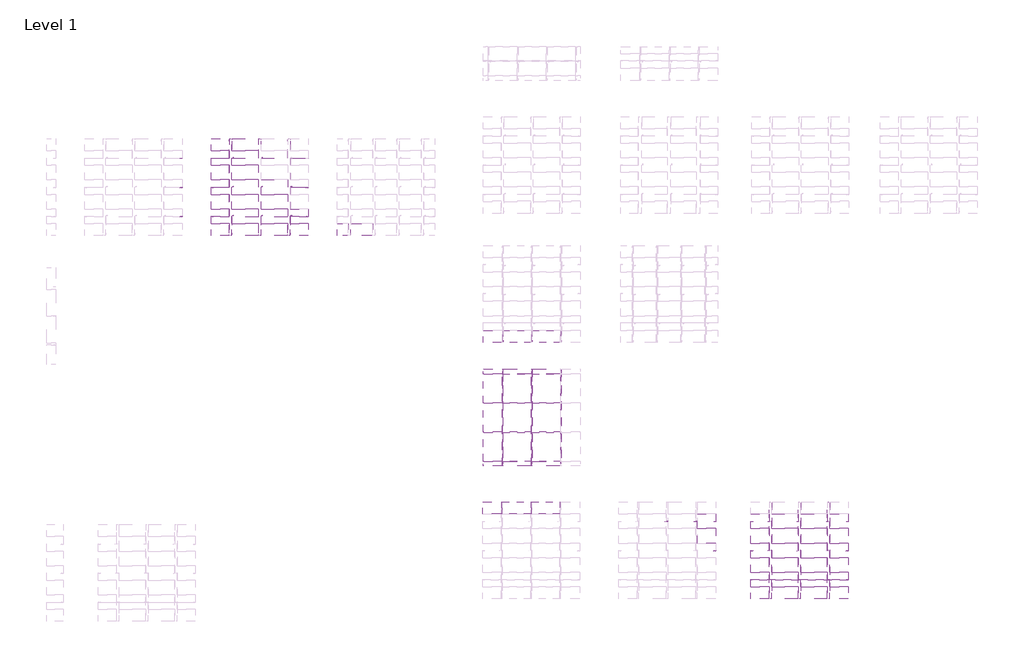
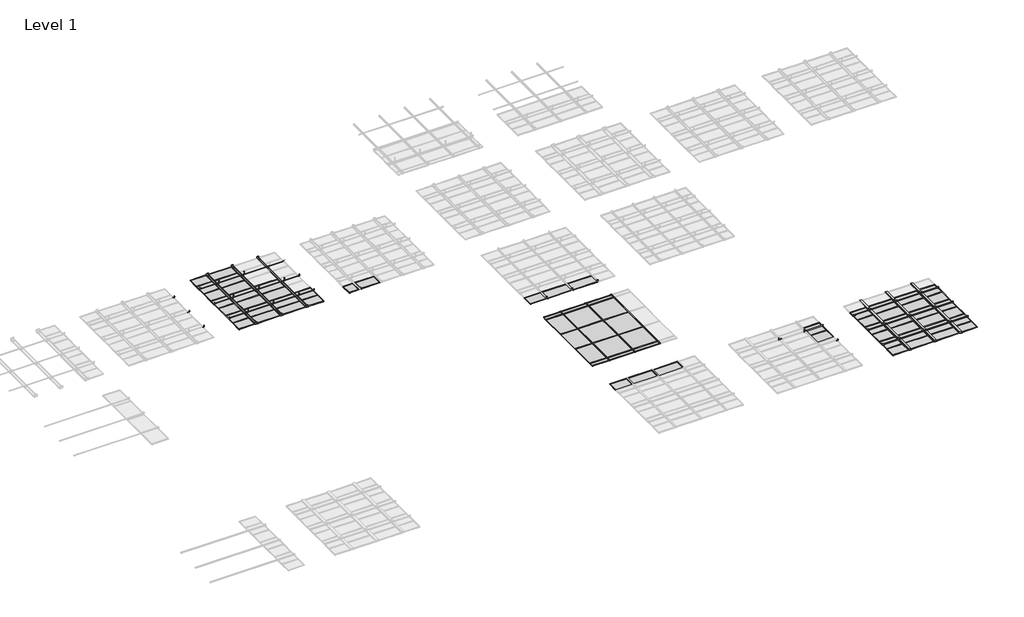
# One storey, part 5 of 32: 136 proxies.
"""IFC4 building model written with IfcOpenShell, lengths in millimetres."""

from ifc_helpers import new_model, si_unit, origin, place, context, project, spatial, transform, mapped, element, save
from components import generic_models_68f9382c, generic_models_d3878264, generic_models_7700acbb, generic_models_8e456d97, generic_models_674eb8ab, generic_models_d1081ca2, generic_models_7d67d448, generic_models_b8162554, generic_models_99a2cd64, generic_models_cbd92ba2, generic_models_ce491251, generic_models_a5dce9ca, generic_models_0bd2aacc, generic_models_586f8c3b, generic_models_67fbcb7b, generic_models_25bc2594, generic_models_10fcad68, generic_models_8b703b53, generic_models_84b6d0ed, generic_models_a920f71d, generic_models_9b3707d3, generic_models_0d7f372a, generic_models_a7cc5778, generic_models_d23eb307, generic_models_71d81b3c, generic_models_2307843b, generic_models_9e18e937, generic_models_28f6a95c

model = new_model("IFC4")

# Units and contexts
model_context = context("Model", 3, world=origin())
ifc_project = project(units=[si_unit("LENGTHUNIT", "METRE", prefix="MILLI")], contexts=[model_context])

# Site, building, storey
site = spatial("IfcSite", under=ifc_project)
building = spatial("IfcBuilding", under=site)
storey = spatial("IfcBuildingStorey", under=building, Name="Level 1", Elevation=0.0)

# Proxies
placement = place(None, origin())
generic_models_shape = generic_models_68f9382c(model_context)
element("IfcBuildingElementProxy", 1, Name="durlum_S5-100_RHOMBOS_panel : durlum_S5-100_RHOMBOS_panel", ObjectType="durlum_S5-100_RHOMBOS_panel : durlum_S5-100_RHOMBOS_panel", at=placement, inside=storey, context=model_context, shape_type="MappedRepresentation", body=[
    mapped(generic_models_shape, transform((-29195.2269838, -2961.3211481, 3800.0), x_axis=(1.0, 0.0, 0.0), y_axis=(0.0, 1.0, 0.0), z_axis=(0.0, 0.0, 1.0))),
])
element("IfcBuildingElementProxy", 2, Name="durlum_S5-100_RHOMBOS_panel : durlum_S5-100_RHOMBOS_panel", ObjectType="durlum_S5-100_RHOMBOS_panel : durlum_S5-100_RHOMBOS_panel", at=placement, inside=storey, context=model_context, shape_type="MappedRepresentation", body=[
    mapped(generic_models_shape, transform((-27995.2269838, -2961.3211481, 3800.0), x_axis=(1.0, 0.0, 0.0), y_axis=(0.0, 1.0, 0.0), z_axis=(0.0, 0.0, 1.0))),
])
element("IfcBuildingElementProxy", 3, Name="durlum_S5-100_RHOMBOS_panel : durlum_S5-100_RHOMBOS_panel", ObjectType="durlum_S5-100_RHOMBOS_panel : durlum_S5-100_RHOMBOS_panel", at=placement, inside=storey, context=model_context, shape_type="MappedRepresentation", body=[
    mapped(generic_models_shape, transform((-29195.2269838, -2361.3211481, 3800.0), x_axis=(1.0, 0.0, 0.0), y_axis=(0.0, 1.0, 0.0), z_axis=(0.0, 0.0, 1.0))),
])
element("IfcBuildingElementProxy", 4, Name="durlum_S5-100_RHOMBOS_panel : durlum_S5-100_RHOMBOS_panel", ObjectType="durlum_S5-100_RHOMBOS_panel : durlum_S5-100_RHOMBOS_panel", at=placement, inside=storey, context=model_context, shape_type="MappedRepresentation", body=[
    mapped(generic_models_shape, transform((-27995.2269838, -2361.3211481, 3800.0), x_axis=(1.0, 0.0, 0.0), y_axis=(0.0, 1.0, 0.0), z_axis=(0.0, 0.0, 1.0))),
])
element("IfcBuildingElementProxy", 5, Name="durlum_S5-100_RHOMBOS_panel : durlum_S5-100_RHOMBOS_panel", ObjectType="durlum_S5-100_RHOMBOS_panel : durlum_S5-100_RHOMBOS_panel", at=placement, inside=storey, context=model_context, shape_type="MappedRepresentation", body=[
    mapped(generic_models_shape, transform((-29195.2269838, -1761.3211481, 3800.0), x_axis=(1.0, 0.0, 0.0), y_axis=(0.0, 1.0, 0.0), z_axis=(0.0, 0.0, 1.0))),
])
element("IfcBuildingElementProxy", 6, Name="durlum_S5-100_RHOMBOS_panel : durlum_S5-100_RHOMBOS_panel", ObjectType="durlum_S5-100_RHOMBOS_panel : durlum_S5-100_RHOMBOS_panel", at=placement, inside=storey, context=model_context, shape_type="MappedRepresentation", body=[
    mapped(generic_models_shape, transform((-29195.2269838, -3561.3211481, 3800.0), x_axis=(1.0, 0.0, 0.0), y_axis=(0.0, 1.0, 0.0), z_axis=(0.0, 0.0, 1.0))),
])
element("IfcBuildingElementProxy", 7, Name="durlum_S5-100_RHOMBOS_panel : durlum_S5-100_RHOMBOS_panel", ObjectType="durlum_S5-100_RHOMBOS_panel : durlum_S5-100_RHOMBOS_panel", at=placement, inside=storey, context=model_context, shape_type="MappedRepresentation", body=[
    mapped(generic_models_shape, transform((-27995.2269838, -3561.3211481, 3800.0), x_axis=(1.0, 0.0, 0.0), y_axis=(0.0, 1.0, 0.0), z_axis=(0.0, 0.0, 1.0))),
])
element("IfcBuildingElementProxy", 8, Name="durlum_S5-100_RHOMBOS_panel : durlum_S5-100_RHOMBOS_panel", ObjectType="durlum_S5-100_RHOMBOS_panel : durlum_S5-100_RHOMBOS_panel", at=placement, inside=storey, context=model_context, shape_type="MappedRepresentation", body=[
    mapped(generic_models_shape, transform((-29195.2269838, -1161.3211481, 3800.0), x_axis=(1.0, 0.0, 0.0), y_axis=(0.0, 1.0, 0.0), z_axis=(0.0, 0.0, 1.0))),
])
generic_models_2_shape = generic_models_d3878264(model_context)
element("IfcBuildingElementProxy", 9, Name="durlum_S5-100_RHOMBOS_panel : durlum_S5-100_RHOMBOS_panel_wall_length_cut", ObjectType="durlum_S5-100_RHOMBOS_panel : durlum_S5-100_RHOMBOS_panel_wall_length_cut", at=placement, inside=storey, context=model_context, shape_type="MappedRepresentation", body=[
    mapped(generic_models_2_shape, transform((-30221.7269838, -2961.3211481, 3800.0), x_axis=(1.0, 0.0, 0.0), y_axis=(0.0, 1.0, 0.0), z_axis=(0.0, 0.0, 1.0))),
])
element("IfcBuildingElementProxy", 10, Name="durlum_S5-100_RHOMBOS_panel : durlum_S5-100_RHOMBOS_panel_wall_length_cut", ObjectType="durlum_S5-100_RHOMBOS_panel : durlum_S5-100_RHOMBOS_panel_wall_length_cut", at=placement, inside=storey, context=model_context, shape_type="MappedRepresentation", body=[
    mapped(generic_models_2_shape, transform((-30221.7269838, -2361.3211481, 3800.0), x_axis=(1.0, 0.0, 0.0), y_axis=(0.0, 1.0, 0.0), z_axis=(0.0, 0.0, 1.0))),
])
element("IfcBuildingElementProxy", 11, Name="durlum_S5-100_RHOMBOS_panel : durlum_S5-100_RHOMBOS_panel_wall_length_cut", ObjectType="durlum_S5-100_RHOMBOS_panel : durlum_S5-100_RHOMBOS_panel_wall_length_cut", at=placement, inside=storey, context=model_context, shape_type="MappedRepresentation", body=[
    mapped(generic_models_2_shape, transform((-30221.7269838, -1761.3211481, 3800.0), x_axis=(1.0, 0.0, 0.0), y_axis=(0.0, 1.0, 0.0), z_axis=(0.0, 0.0, 1.0))),
])
element("IfcBuildingElementProxy", 12, Name="durlum_S5-100_RHOMBOS_panel : durlum_S5-100_RHOMBOS_panel_wall_length_cut", ObjectType="durlum_S5-100_RHOMBOS_panel : durlum_S5-100_RHOMBOS_panel_wall_length_cut", at=placement, inside=storey, context=model_context, shape_type="MappedRepresentation", body=[
    mapped(generic_models_2_shape, transform((-30221.7269838, -3561.3211481, 3800.0), x_axis=(1.0, 0.0, 0.0), y_axis=(0.0, 1.0, 0.0), z_axis=(0.0, 0.0, 1.0))),
])
element("IfcBuildingElementProxy", 13, Name="durlum_S5-100_RHOMBOS_panel : durlum_S5-100_RHOMBOS_panel_wall_length_cut", ObjectType="durlum_S5-100_RHOMBOS_panel : durlum_S5-100_RHOMBOS_panel_wall_length_cut", at=placement, inside=storey, context=model_context, shape_type="MappedRepresentation", body=[
    mapped(generic_models_2_shape, transform((-26968.7269838, -3561.3211481, 3800.0), x_axis=(1.0, 0.0, 0.0), y_axis=(0.0, 1.0, 0.0), z_axis=(0.0, 0.0, 1.0))),
])
element("IfcBuildingElementProxy", 14, Name="durlum_S5-100_RHOMBOS_panel : durlum_S5-100_RHOMBOS_panel_wall_length_cut", ObjectType="durlum_S5-100_RHOMBOS_panel : durlum_S5-100_RHOMBOS_panel_wall_length_cut", at=placement, inside=storey, context=model_context, shape_type="MappedRepresentation", body=[
    mapped(generic_models_2_shape, transform((-30221.7269838, -1161.3211481, 3800.0), x_axis=(1.0, 0.0, 0.0), y_axis=(0.0, 1.0, 0.0), z_axis=(0.0, 0.0, 1.0))),
])
generic_models_3_shape = generic_models_7700acbb(model_context)
element("IfcBuildingElementProxy", 15, Name="durlum_S5-100_RHOMBOS_panel : durlum_S5-100_RHOMBOS_panel_wall_width_cut", ObjectType="durlum_S5-100_RHOMBOS_panel : durlum_S5-100_RHOMBOS_panel_wall_width_cut", at=placement, inside=storey, context=model_context, shape_type="MappedRepresentation", body=[
    mapped(generic_models_3_shape, transform((-27995.2269838, -4111.3211481, 3800.0), x_axis=(1.0, 0.0, 0.0), y_axis=(0.0, 1.0, 0.0), z_axis=(0.0, 0.0, 1.0))),
])
element("IfcBuildingElementProxy", 16, Name="durlum_S5-100_RHOMBOS_panel : durlum_S5-100_RHOMBOS_panel_wall_width_cut", ObjectType="durlum_S5-100_RHOMBOS_panel : durlum_S5-100_RHOMBOS_panel_wall_width_cut", at=placement, inside=storey, context=model_context, shape_type="MappedRepresentation", body=[
    mapped(generic_models_3_shape, transform((-29195.2269838, -4111.3211481, 3800.0), x_axis=(1.0, 0.0, 0.0), y_axis=(0.0, 1.0, 0.0), z_axis=(0.0, 0.0, 1.0))),
])
element("IfcBuildingElementProxy", 17, Name="durlum_S5-100_RHOMBOS_panel : durlum_S5-100_RHOMBOS_panel_wall_width_cut", ObjectType="durlum_S5-100_RHOMBOS_panel : durlum_S5-100_RHOMBOS_panel_wall_width_cut", at=placement, inside=storey, context=model_context, shape_type="MappedRepresentation", body=[
    mapped(generic_models_3_shape, transform((-29195.2269838, -611.3211481, 3800.0), x_axis=(1.0, 0.0, 0.0), y_axis=(0.0, 1.0, 0.0), z_axis=(0.0, 0.0, 1.0))),
])
generic_models_4_shape = generic_models_8e456d97(model_context)
element("IfcBuildingElementProxy", 18, Name="durlum_S5-100_RHOMBOS_panel : durlum_S5-100_RHOMBOS_panel_wall_corner", ObjectType="durlum_S5-100_RHOMBOS_panel : durlum_S5-100_RHOMBOS_panel_wall_corner", at=placement, inside=storey, context=model_context, shape_type="MappedRepresentation", body=[
    mapped(generic_models_4_shape, transform((-30221.7269838, -4111.3211481, 3800.0), x_axis=(1.0, 0.0, 0.0), y_axis=(0.0, 1.0, 0.0), z_axis=(0.0, 0.0, 1.0))),
])
element("IfcBuildingElementProxy", 19, Name="durlum_S5-100_RHOMBOS_panel : durlum_S5-100_RHOMBOS_panel_wall_corner", ObjectType="durlum_S5-100_RHOMBOS_panel : durlum_S5-100_RHOMBOS_panel_wall_corner", at=placement, inside=storey, context=model_context, shape_type="MappedRepresentation", body=[
    mapped(generic_models_4_shape, transform((-26968.7269838, -4111.3211481, 3800.0), x_axis=(1.0, 0.0, 0.0), y_axis=(0.0, 1.0, 0.0), z_axis=(0.0, 0.0, 1.0))),
])
element("IfcBuildingElementProxy", 20, Name="durlum_S5-100_RHOMBOS_panel : durlum_S5-100_RHOMBOS_panel_wall_corner", ObjectType="durlum_S5-100_RHOMBOS_panel : durlum_S5-100_RHOMBOS_panel_wall_corner", at=placement, inside=storey, context=model_context, shape_type="MappedRepresentation", body=[
    mapped(generic_models_4_shape, transform((-30221.7269838, -611.3211481, 3800.0), x_axis=(1.0, 0.0, 0.0), y_axis=(0.0, 1.0, 0.0), z_axis=(0.0, 0.0, 1.0))),
])
generic_models_5_shape = generic_models_674eb8ab(model_context)
element("IfcBuildingElementProxy", 21, Name="durlum_U1093 : durlum_U1093", ObjectType="durlum_U1093 : durlum_U1093", at=placement, inside=storey, context=model_context, shape_type="MappedRepresentation", body=[
    mapped(generic_models_5_shape, transform((-17390.1736977, -11861.9209574, 3824.0), x_axis=(0.0, -1.0, 0.0), y_axis=(1.0, 0.0, 0.0), z_axis=(0.0, 0.0, 1.0))),
])
element("IfcBuildingElementProxy", 22, Name="durlum_U1093 : durlum_U1093", ObjectType="durlum_U1093 : durlum_U1093", at=placement, inside=storey, context=model_context, shape_type="MappedRepresentation", body=[
    mapped(generic_models_5_shape, transform((-16190.1736977, -11861.9209574, 3824.0), x_axis=(0.0, -1.0, 0.0), y_axis=(1.0, 0.0, 0.0), z_axis=(0.0, 0.0, 1.0))),
])
element("IfcBuildingElementProxy", 23, Name="durlum_U1093 : durlum_U1093", ObjectType="durlum_U1093 : durlum_U1093", at=placement, inside=storey, context=model_context, shape_type="MappedRepresentation", body=[
    mapped(generic_models_5_shape, transform((-18590.1736977, -11861.9209574, 3824.0), x_axis=(0.0, -1.0, 0.0), y_axis=(1.0, 0.0, 0.0), z_axis=(0.0, 0.0, 1.0))),
])
generic_models_6_shape = generic_models_d1081ca2(model_context)
element("IfcBuildingElementProxy", 24, Name="durlum_S7_panel : durlum_S7_panel_wall_width_cut", ObjectType="durlum_S7_panel : durlum_S7_panel_wall_width_cut", at=placement, inside=storey, context=model_context, shape_type="MappedRepresentation", body=[
    mapped(generic_models_6_shape, transform((-16790.1736977, -8514.8137232, 3800.0), x_axis=(1.0, 0.0, 0.0), y_axis=(0.0, 1.0, 0.0), z_axis=(0.0, 0.0, 1.0))),
])
element("IfcBuildingElementProxy", 25, Name="durlum_S7_panel : durlum_S7_panel_wall_width_cut", ObjectType="durlum_S7_panel : durlum_S7_panel_wall_width_cut", at=placement, inside=storey, context=model_context, shape_type="MappedRepresentation", body=[
    mapped(generic_models_6_shape, transform((-17990.1736977, -8514.8137232, 3800.0), x_axis=(1.0, 0.0, 0.0), y_axis=(0.0, 1.0, 0.0), z_axis=(0.0, 0.0, 1.0))),
])
generic_models_7_shape = generic_models_7d67d448(model_context)
element("IfcBuildingElementProxy", 26, Name="durlum_S7_panel : durlum_S7_panel_wall_corner", ObjectType="durlum_S7_panel : durlum_S7_panel_wall_corner", at=placement, inside=storey, context=model_context, shape_type="MappedRepresentation", body=[
    mapped(generic_models_7_shape, transform((-18990.1736977, -8514.8137232, 3800.0), x_axis=(1.0, 0.0, 0.0), y_axis=(0.0, 1.0, 0.0), z_axis=(0.0, 0.0, 1.0))),
])
generic_models_8_shape = generic_models_b8162554(model_context)
element("IfcBuildingElementProxy", 27, Name="durlum_S5.7KS-BR_panel : durlum_S5.7KS-BR_panel_wall_width_cut", ObjectType="durlum_S5.7KS-BR_panel : durlum_S5.7KS-BR_panel_wall_width_cut", at=placement, inside=storey, context=model_context, shape_type="MappedRepresentation", body=[
    mapped(generic_models_8_shape, transform((-24395.2269838, -4111.3211481, 3800.0), x_axis=(1.0, 0.0, 0.0), y_axis=(0.0, 1.0, 0.0), z_axis=(0.0, 0.0, 1.0))),
])
generic_models_9_shape = generic_models_99a2cd64(model_context)
element("IfcBuildingElementProxy", 28, Name="durlum_S5.7KS-BR_panel : durlum_S5.7KS-BR_panel_wall_corner", ObjectType="durlum_S5.7KS-BR_panel : durlum_S5.7KS-BR_panel_wall_corner", at=placement, inside=storey, context=model_context, shape_type="MappedRepresentation", body=[
    mapped(generic_models_9_shape, transform((-25171.7269838, -4111.3211481, 3800.0), x_axis=(1.0, 0.0, 0.0), y_axis=(0.0, 1.0, 0.0), z_axis=(0.0, 0.0, 1.0))),
])
generic_models_10_shape = generic_models_cbd92ba2(model_context)
element("IfcBuildingElementProxy", 29, Name="durlum_S5.6FH_RHOMBOS : durlum_S5.6FH_RHOMBOS", ObjectType="durlum_S5.6FH_RHOMBOS : durlum_S5.6FH_RHOMBOS", at=placement, inside=storey, context=model_context, shape_type="MappedRepresentation", body=[
    mapped(generic_models_10_shape, transform((-28595.2269838, -2361.3211481, 1700.0), x_axis=(1.0, 0.0, 0.0), y_axis=(0.0, 1.0, 0.0), z_axis=(0.0, 0.0, 1.0))),
])
generic_models_11_shape = generic_models_ce491251(model_context)
element("IfcBuildingElementProxy", 30, Name="durlum_U1300 : durlum_U1300", ObjectType="durlum_U1300 : durlum_U1300", at=placement, inside=storey, context=model_context, shape_type="MappedRepresentation", body=[
    mapped(generic_models_11_shape, transform((-29695.2269838, -3561.3211481, 3149.4124682), x_axis=(-1.0, 0.0, 0.0), y_axis=(0.0, -1.0, 0.0), z_axis=(0.0, 0.0, 1.0))),
])
element("IfcBuildingElementProxy", 31, Name="durlum_U1300 : durlum_U1300", ObjectType="durlum_U1300 : durlum_U1300", at=placement, inside=storey, context=model_context, shape_type="MappedRepresentation", body=[
    mapped(generic_models_11_shape, transform((-27295.2269838, -3561.3211481, 3149.4124682), x_axis=(-1.0, 0.0, 0.0), y_axis=(0.0, -1.0, 0.0), z_axis=(0.0, 0.0, 1.0))),
])
element("IfcBuildingElementProxy", 32, Name="durlum_U1300 : durlum_U1300", ObjectType="durlum_U1300 : durlum_U1300", at=placement, inside=storey, context=model_context, shape_type="MappedRepresentation", body=[
    mapped(generic_models_11_shape, transform((-28495.2269838, -3561.3211481, 3149.4124682), x_axis=(-1.0, 0.0, 0.0), y_axis=(0.0, -1.0, 0.0), z_axis=(0.0, 0.0, 1.0))),
])
element("IfcBuildingElementProxy", 33, Name="durlum_U1300 : durlum_U1300", ObjectType="durlum_U1300 : durlum_U1300", at=placement, inside=storey, context=model_context, shape_type="MappedRepresentation", body=[
    mapped(generic_models_11_shape, transform((-29695.2269838, -1161.3211481, 3149.4124682), x_axis=(-1.0, 0.0, 0.0), y_axis=(0.0, -1.0, 0.0), z_axis=(0.0, 0.0, 1.0))),
])
element("IfcBuildingElementProxy", 34, Name="durlum_U1300 : durlum_U1300", ObjectType="durlum_U1300 : durlum_U1300", at=placement, inside=storey, context=model_context, shape_type="MappedRepresentation", body=[
    mapped(generic_models_11_shape, transform((-28495.2269838, -1161.3211481, 3149.4124682), x_axis=(-1.0, 0.0, 0.0), y_axis=(0.0, -1.0, 0.0), z_axis=(0.0, 0.0, 1.0))),
])
element("IfcBuildingElementProxy", 35, Name="durlum_U1300 : durlum_U1300", ObjectType="durlum_U1300 : durlum_U1300", at=placement, inside=storey, context=model_context, shape_type="MappedRepresentation", body=[
    mapped(generic_models_11_shape, transform((-29695.2269838, -2361.3211481, 3149.4124682), x_axis=(-1.0, 0.0, 0.0), y_axis=(0.0, -1.0, 0.0), z_axis=(0.0, 0.0, 1.0))),
])
element("IfcBuildingElementProxy", 36, Name="durlum_U1300 : durlum_U1300", ObjectType="durlum_U1300 : durlum_U1300", at=placement, inside=storey, context=model_context, shape_type="MappedRepresentation", body=[
    mapped(generic_models_11_shape, transform((-27295.2269838, -2361.3211481, 3149.4124682), x_axis=(-1.0, 0.0, 0.0), y_axis=(0.0, -1.0, 0.0), z_axis=(0.0, 0.0, 1.0))),
])
element("IfcBuildingElementProxy", 37, Name="durlum_U1300 : durlum_U1300", ObjectType="durlum_U1300 : durlum_U1300", at=placement, inside=storey, context=model_context, shape_type="MappedRepresentation", body=[
    mapped(generic_models_11_shape, transform((-28495.2269838, -2361.3211481, 3149.4124682), x_axis=(-1.0, 0.0, 0.0), y_axis=(0.0, -1.0, 0.0), z_axis=(0.0, 0.0, 1.0))),
])
generic_models_12_shape = generic_models_a5dce9ca(model_context)
element("IfcBuildingElementProxy", 38, Name="durlum_S10H_panel : durlum_S10H_panel", ObjectType="durlum_S10H_panel : durlum_S10H_panel", at=placement, inside=storey, context=model_context, shape_type="MappedRepresentation", body=[
    mapped(generic_models_12_shape, transform((-17990.1736977, -11861.9209574, 3800.0), x_axis=(1.0, 0.0, 0.0), y_axis=(0.0, 1.0, 0.0), z_axis=(0.0, 0.0, 1.0))),
])
element("IfcBuildingElementProxy", 39, Name="durlum_S10H_panel : durlum_S10H_panel", ObjectType="durlum_S10H_panel : durlum_S10H_panel", at=placement, inside=storey, context=model_context, shape_type="MappedRepresentation", body=[
    mapped(generic_models_12_shape, transform((-16790.1736977, -11861.9209574, 3800.0), x_axis=(1.0, 0.0, 0.0), y_axis=(0.0, 1.0, 0.0), z_axis=(0.0, 0.0, 1.0))),
])
element("IfcBuildingElementProxy", 40, Name="durlum_S10H_panel : durlum_S10H_panel", ObjectType="durlum_S10H_panel : durlum_S10H_panel", at=placement, inside=storey, context=model_context, shape_type="MappedRepresentation", body=[
    mapped(generic_models_12_shape, transform((-17990.1736977, -13061.9209574, 3800.0), x_axis=(1.0, 0.0, 0.0), y_axis=(0.0, 1.0, 0.0), z_axis=(0.0, 0.0, 1.0))),
])
element("IfcBuildingElementProxy", 41, Name="durlum_S10H_panel : durlum_S10H_panel", ObjectType="durlum_S10H_panel : durlum_S10H_panel", at=placement, inside=storey, context=model_context, shape_type="MappedRepresentation", body=[
    mapped(generic_models_12_shape, transform((-16790.1736977, -13061.9209574, 3800.0), x_axis=(1.0, 0.0, 0.0), y_axis=(0.0, 1.0, 0.0), z_axis=(0.0, 0.0, 1.0))),
])
element("IfcBuildingElementProxy", 42, Name="durlum_S10H_panel : durlum_S10H_panel", ObjectType="durlum_S10H_panel : durlum_S10H_panel", at=placement, inside=storey, context=model_context, shape_type="MappedRepresentation", body=[
    mapped(generic_models_12_shape, transform((-17990.1736977, -10661.9209574, 3800.0), x_axis=(1.0, 0.0, 0.0), y_axis=(0.0, 1.0, 0.0), z_axis=(0.0, 0.0, 1.0))),
])
element("IfcBuildingElementProxy", 43, Name="durlum_S10H_panel : durlum_S10H_panel", ObjectType="durlum_S10H_panel : durlum_S10H_panel", at=placement, inside=storey, context=model_context, shape_type="MappedRepresentation", body=[
    mapped(generic_models_12_shape, transform((-16790.1736977, -10661.9209574, 3800.0), x_axis=(1.0, 0.0, 0.0), y_axis=(0.0, 1.0, 0.0), z_axis=(0.0, 0.0, 1.0))),
])
generic_models_13_shape = generic_models_0bd2aacc(model_context)
element("IfcBuildingElementProxy", 44, Name="durlum_S10H_panel : durlum_S10H_panel_wall_width_cut", ObjectType="durlum_S10H_panel : durlum_S10H_panel_wall_width_cut", at=placement, inside=storey, context=model_context, shape_type="MappedRepresentation", body=[
    mapped(generic_models_13_shape, transform((-16790.1736977, -13761.9209574, 3800.0), x_axis=(1.0, 0.0, 0.0), y_axis=(0.0, 1.0, 0.0), z_axis=(0.0, 0.0, 1.0))),
])
element("IfcBuildingElementProxy", 45, Name="durlum_S10H_panel : durlum_S10H_panel_wall_width_cut", ObjectType="durlum_S10H_panel : durlum_S10H_panel_wall_width_cut", at=placement, inside=storey, context=model_context, shape_type="MappedRepresentation", body=[
    mapped(generic_models_13_shape, transform((-16790.1736977, -9961.9209574, 3800.0), x_axis=(1.0, 0.0, 0.0), y_axis=(0.0, 1.0, 0.0), z_axis=(0.0, 0.0, 1.0))),
])
element("IfcBuildingElementProxy", 46, Name="durlum_S10H_panel : durlum_S10H_panel_wall_width_cut", ObjectType="durlum_S10H_panel : durlum_S10H_panel_wall_width_cut", at=placement, inside=storey, context=model_context, shape_type="MappedRepresentation", body=[
    mapped(generic_models_13_shape, transform((-17990.1736977, -13761.9209574, 3800.0), x_axis=(1.0, 0.0, 0.0), y_axis=(0.0, 1.0, 0.0), z_axis=(0.0, 0.0, 1.0))),
])
element("IfcBuildingElementProxy", 47, Name="durlum_S10H_panel : durlum_S10H_panel_wall_width_cut", ObjectType="durlum_S10H_panel : durlum_S10H_panel_wall_width_cut", at=placement, inside=storey, context=model_context, shape_type="MappedRepresentation", body=[
    mapped(generic_models_13_shape, transform((-17990.1736977, -9961.9209574, 3800.0), x_axis=(1.0, 0.0, 0.0), y_axis=(0.0, 1.0, 0.0), z_axis=(0.0, 0.0, 1.0))),
])
generic_models_14_shape = generic_models_586f8c3b(model_context)
element("IfcBuildingElementProxy", 48, Name="durlum_S10H_panel : durlum_S10H_panel_wall_length_cut", ObjectType="durlum_S10H_panel : durlum_S10H_panel_wall_length_cut", at=placement, inside=storey, context=model_context, shape_type="MappedRepresentation", body=[
    mapped(generic_models_14_shape, transform((-18990.1736977, -11861.9209574, 3800.0), x_axis=(1.0, 0.0, 0.0), y_axis=(0.0, 1.0, 0.0), z_axis=(0.0, 0.0, 1.0))),
])
element("IfcBuildingElementProxy", 49, Name="durlum_S10H_panel : durlum_S10H_panel_wall_length_cut", ObjectType="durlum_S10H_panel : durlum_S10H_panel_wall_length_cut", at=placement, inside=storey, context=model_context, shape_type="MappedRepresentation", body=[
    mapped(generic_models_14_shape, transform((-18990.1736977, -13061.9209574, 3800.0), x_axis=(1.0, 0.0, 0.0), y_axis=(0.0, 1.0, 0.0), z_axis=(0.0, 0.0, 1.0))),
])
element("IfcBuildingElementProxy", 50, Name="durlum_S10H_panel : durlum_S10H_panel_wall_length_cut", ObjectType="durlum_S10H_panel : durlum_S10H_panel_wall_length_cut", at=placement, inside=storey, context=model_context, shape_type="MappedRepresentation", body=[
    mapped(generic_models_14_shape, transform((-18990.1736977, -10661.9209574, 3800.0), x_axis=(1.0, 0.0, 0.0), y_axis=(0.0, 1.0, 0.0), z_axis=(0.0, 0.0, 1.0))),
])
generic_models_15_shape = generic_models_67fbcb7b(model_context)
element("IfcBuildingElementProxy", 51, Name="durlum_S10H_panel : durlum_S10H_panel_wall_corner", ObjectType="durlum_S10H_panel : durlum_S10H_panel_wall_corner", at=placement, inside=storey, context=model_context, shape_type="MappedRepresentation", body=[
    mapped(generic_models_15_shape, transform((-18990.1736977, -13761.9209574, 3800.0), x_axis=(1.0, 0.0, 0.0), y_axis=(0.0, 1.0, 0.0), z_axis=(0.0, 0.0, 1.0))),
])
element("IfcBuildingElementProxy", 52, Name="durlum_S10H_panel : durlum_S10H_panel_wall_corner", ObjectType="durlum_S10H_panel : durlum_S10H_panel_wall_corner", at=placement, inside=storey, context=model_context, shape_type="MappedRepresentation", body=[
    mapped(generic_models_15_shape, transform((-18990.1736977, -9961.9209574, 3800.0), x_axis=(1.0, 0.0, 0.0), y_axis=(0.0, 1.0, 0.0), z_axis=(0.0, 0.0, 1.0))),
])
generic_models_16_shape = generic_models_25bc2594(model_context)
element("IfcBuildingElementProxy", 53, Name="durlum_OMEGA_100 : durlum_OMEGA_100", ObjectType="durlum_OMEGA_100 : durlum_OMEGA_100", at=placement, inside=storey, context=model_context, shape_type="MappedRepresentation", body=[
    mapped(generic_models_16_shape, transform((-6365.0747393, -17335.3492254, 3800.0), x_axis=(0.0, -1.0, 0.0), y_axis=(1.0, 0.0, 0.0), z_axis=(0.0, 0.0, 1.0))),
])
element("IfcBuildingElementProxy", 54, Name="durlum_OMEGA_100 : durlum_OMEGA_100", ObjectType="durlum_OMEGA_100 : durlum_OMEGA_100", at=placement, inside=storey, context=model_context, shape_type="MappedRepresentation", body=[
    mapped(generic_models_16_shape, transform((-7565.0747393, -17335.3492254, 3800.0), x_axis=(0.0, -1.0, 0.0), y_axis=(1.0, 0.0, 0.0), z_axis=(0.0, 0.0, 1.0))),
])
element("IfcBuildingElementProxy", 55, Name="durlum_OMEGA_100 : durlum_OMEGA_100", ObjectType="durlum_OMEGA_100 : durlum_OMEGA_100", at=placement, inside=storey, context=model_context, shape_type="MappedRepresentation", body=[
    mapped(generic_models_16_shape, transform((-5165.0747393, -17335.3492254, 3800.0), x_axis=(0.0, -1.0, 0.0), y_axis=(1.0, 0.0, 0.0), z_axis=(0.0, 0.0, 1.0))),
])
generic_models_17_shape = generic_models_10fcad68(model_context)
element("IfcBuildingElementProxy", 56, Name="durlum_S-OM-100_panel : durlum_S-OM-100_panel_wall_width_cut", ObjectType="durlum_S-OM-100_panel : durlum_S-OM-100_panel_wall_width_cut", at=placement, inside=storey, context=model_context, shape_type="MappedRepresentation", body=[
    mapped(generic_models_17_shape, transform((-5765.0747393, -19085.3492254, 3800.0), x_axis=(1.0, 0.0, 0.0), y_axis=(0.0, 1.0, 0.0), z_axis=(0.0, 0.0, 1.0))),
])
element("IfcBuildingElementProxy", 57, Name="durlum_S-OM-100_panel : durlum_S-OM-100_panel_wall_width_cut", ObjectType="durlum_S-OM-100_panel : durlum_S-OM-100_panel_wall_width_cut", at=placement, inside=storey, context=model_context, shape_type="MappedRepresentation", body=[
    mapped(generic_models_17_shape, transform((-6965.0747393, -19085.3492254, 3800.0), x_axis=(1.0, 0.0, 0.0), y_axis=(0.0, 1.0, 0.0), z_axis=(0.0, 0.0, 1.0))),
])
generic_models_18_shape = generic_models_8b703b53(model_context)
element("IfcBuildingElementProxy", 58, Name="durlum_S-OM-100_panel : durlum_S-OM-100_panel", ObjectType="durlum_S-OM-100_panel : durlum_S-OM-100_panel", at=placement, inside=storey, context=model_context, shape_type="MappedRepresentation", body=[
    mapped(generic_models_18_shape, transform((-6965.0747393, -17935.3492254, 3800.0), x_axis=(1.0, 0.0, 0.0), y_axis=(0.0, 1.0, 0.0), z_axis=(0.0, 0.0, 1.0))),
])
element("IfcBuildingElementProxy", 59, Name="durlum_S-OM-100_panel : durlum_S-OM-100_panel", ObjectType="durlum_S-OM-100_panel : durlum_S-OM-100_panel", at=placement, inside=storey, context=model_context, shape_type="MappedRepresentation", body=[
    mapped(generic_models_18_shape, transform((-5765.0747393, -17935.3492254, 3800.0), x_axis=(1.0, 0.0, 0.0), y_axis=(0.0, 1.0, 0.0), z_axis=(0.0, 0.0, 1.0))),
])
element("IfcBuildingElementProxy", 60, Name="durlum_S-OM-100_panel : durlum_S-OM-100_panel", ObjectType="durlum_S-OM-100_panel : durlum_S-OM-100_panel", at=placement, inside=storey, context=model_context, shape_type="MappedRepresentation", body=[
    mapped(generic_models_18_shape, transform((-6965.0747393, -17335.3492254, 3800.0), x_axis=(1.0, 0.0, 0.0), y_axis=(0.0, 1.0, 0.0), z_axis=(0.0, 0.0, 1.0))),
])
element("IfcBuildingElementProxy", 61, Name="durlum_S-OM-100_panel : durlum_S-OM-100_panel", ObjectType="durlum_S-OM-100_panel : durlum_S-OM-100_panel", at=placement, inside=storey, context=model_context, shape_type="MappedRepresentation", body=[
    mapped(generic_models_18_shape, transform((-5765.0747393, -17335.3492254, 3800.0), x_axis=(1.0, 0.0, 0.0), y_axis=(0.0, 1.0, 0.0), z_axis=(0.0, 0.0, 1.0))),
])
element("IfcBuildingElementProxy", 62, Name="durlum_S-OM-100_panel : durlum_S-OM-100_panel", ObjectType="durlum_S-OM-100_panel : durlum_S-OM-100_panel", at=placement, inside=storey, context=model_context, shape_type="MappedRepresentation", body=[
    mapped(generic_models_18_shape, transform((-6965.0747393, -16735.3492254, 3800.0), x_axis=(1.0, 0.0, 0.0), y_axis=(0.0, 1.0, 0.0), z_axis=(0.0, 0.0, 1.0))),
])
element("IfcBuildingElementProxy", 63, Name="durlum_S-OM-100_panel : durlum_S-OM-100_panel", ObjectType="durlum_S-OM-100_panel : durlum_S-OM-100_panel", at=placement, inside=storey, context=model_context, shape_type="MappedRepresentation", body=[
    mapped(generic_models_18_shape, transform((-5765.0747393, -16735.3492254, 3800.0), x_axis=(1.0, 0.0, 0.0), y_axis=(0.0, 1.0, 0.0), z_axis=(0.0, 0.0, 1.0))),
])
element("IfcBuildingElementProxy", 64, Name="durlum_S-OM-100_panel : durlum_S-OM-100_panel", ObjectType="durlum_S-OM-100_panel : durlum_S-OM-100_panel", at=placement, inside=storey, context=model_context, shape_type="MappedRepresentation", body=[
    mapped(generic_models_18_shape, transform((-6965.0747393, -18535.3492254, 3800.0), x_axis=(1.0, 0.0, 0.0), y_axis=(0.0, 1.0, 0.0), z_axis=(0.0, 0.0, 1.0))),
])
element("IfcBuildingElementProxy", 65, Name="durlum_S-OM-100_panel : durlum_S-OM-100_panel", ObjectType="durlum_S-OM-100_panel : durlum_S-OM-100_panel", at=placement, inside=storey, context=model_context, shape_type="MappedRepresentation", body=[
    mapped(generic_models_18_shape, transform((-5765.0747393, -18535.3492254, 3800.0), x_axis=(1.0, 0.0, 0.0), y_axis=(0.0, 1.0, 0.0), z_axis=(0.0, 0.0, 1.0))),
])
element("IfcBuildingElementProxy", 66, Name="durlum_S-OM-100_panel : durlum_S-OM-100_panel", ObjectType="durlum_S-OM-100_panel : durlum_S-OM-100_panel", at=placement, inside=storey, context=model_context, shape_type="MappedRepresentation", body=[
    mapped(generic_models_18_shape, transform((-6965.0747393, -16135.3492254, 3800.0), x_axis=(1.0, 0.0, 0.0), y_axis=(0.0, 1.0, 0.0), z_axis=(0.0, 0.0, 1.0))),
])
element("IfcBuildingElementProxy", 67, Name="durlum_S-OM-100_panel : durlum_S-OM-100_panel", ObjectType="durlum_S-OM-100_panel : durlum_S-OM-100_panel", at=placement, inside=storey, context=model_context, shape_type="MappedRepresentation", body=[
    mapped(generic_models_18_shape, transform((-5765.0747393, -16135.3492254, 3800.0), x_axis=(1.0, 0.0, 0.0), y_axis=(0.0, 1.0, 0.0), z_axis=(0.0, 0.0, 1.0))),
])
generic_models_19_shape = generic_models_84b6d0ed(model_context)
element("IfcBuildingElementProxy", 68, Name="durlum_OM76_bracket : durlum_OM76_bracket", ObjectType="durlum_OM76_bracket : durlum_OM76_bracket", at=placement, inside=storey, context=model_context, shape_type="MappedRepresentation", body=[
    mapped(generic_models_19_shape, transform((-10593.7945168, -16133.8492254, 3864.0), x_axis=(1.0, 0.0, 0.0), y_axis=(0.0, 1.0, 0.0), z_axis=(0.0, 0.0, 1.0))),
])
element("IfcBuildingElementProxy", 69, Name="durlum_OM76_bracket : durlum_OM76_bracket", ObjectType="durlum_OM76_bracket : durlum_OM76_bracket", at=placement, inside=storey, context=model_context, shape_type="MappedRepresentation", body=[
    mapped(generic_models_19_shape, transform((-11793.7945168, -16133.8492254, 3864.0), x_axis=(1.0, 0.0, 0.0), y_axis=(0.0, 1.0, 0.0), z_axis=(0.0, 0.0, 1.0))),
])
element("IfcBuildingElementProxy", 70, Name="durlum_OM76_bracket : durlum_OM76_bracket", ObjectType="durlum_OM76_bracket : durlum_OM76_bracket", at=placement, inside=storey, context=model_context, shape_type="MappedRepresentation", body=[
    mapped(generic_models_19_shape, transform((-10631.7945168, -16133.8492254, 3864.0), x_axis=(1.0, 0.0, 0.0), y_axis=(0.0, 1.0, 0.0), z_axis=(0.0, 0.0, 1.0))),
])
element("IfcBuildingElementProxy", 71, Name="durlum_OM76_bracket : durlum_OM76_bracket", ObjectType="durlum_OM76_bracket : durlum_OM76_bracket", at=placement, inside=storey, context=model_context, shape_type="MappedRepresentation", body=[
    mapped(generic_models_19_shape, transform((-11831.7945168, -16133.8492254, 3864.0), x_axis=(1.0, 0.0, 0.0), y_axis=(0.0, 1.0, 0.0), z_axis=(0.0, 0.0, 1.0))),
])
element("IfcBuildingElementProxy", 72, Name="durlum_OM76_bracket : durlum_OM76_bracket", ObjectType="durlum_OM76_bracket : durlum_OM76_bracket", at=placement, inside=storey, context=model_context, shape_type="MappedRepresentation", body=[
    mapped(generic_models_19_shape, transform((-5125.0747393, -17333.8492254, 3864.0), x_axis=(1.0, 0.0, 0.0), y_axis=(0.0, 1.0, 0.0), z_axis=(0.0, 0.0, 1.0))),
])
element("IfcBuildingElementProxy", 73, Name="durlum_OM76_bracket : durlum_OM76_bracket", ObjectType="durlum_OM76_bracket : durlum_OM76_bracket", at=placement, inside=storey, context=model_context, shape_type="MappedRepresentation", body=[
    mapped(generic_models_19_shape, transform((-7525.0747393, -17333.8492254, 3864.0), x_axis=(1.0, 0.0, 0.0), y_axis=(0.0, 1.0, 0.0), z_axis=(0.0, 0.0, 1.0))),
])
element("IfcBuildingElementProxy", 74, Name="durlum_OM76_bracket : durlum_OM76_bracket", ObjectType="durlum_OM76_bracket : durlum_OM76_bracket", at=placement, inside=storey, context=model_context, shape_type="MappedRepresentation", body=[
    mapped(generic_models_19_shape, transform((-6325.0747393, -17333.8492254, 3864.0), x_axis=(1.0, 0.0, 0.0), y_axis=(0.0, 1.0, 0.0), z_axis=(0.0, 0.0, 1.0))),
])
element("IfcBuildingElementProxy", 75, Name="durlum_OM76_bracket : durlum_OM76_bracket", ObjectType="durlum_OM76_bracket : durlum_OM76_bracket", at=placement, inside=storey, context=model_context, shape_type="MappedRepresentation", body=[
    mapped(generic_models_19_shape, transform((-7605.0747393, -17333.8492254, 3864.0), x_axis=(1.0, 0.0, 0.0), y_axis=(0.0, 1.0, 0.0), z_axis=(0.0, 0.0, 1.0))),
])
element("IfcBuildingElementProxy", 76, Name="durlum_OM76_bracket : durlum_OM76_bracket", ObjectType="durlum_OM76_bracket : durlum_OM76_bracket", at=placement, inside=storey, context=model_context, shape_type="MappedRepresentation", body=[
    mapped(generic_models_19_shape, transform((-5205.0747393, -17333.8492254, 3864.0), x_axis=(1.0, 0.0, 0.0), y_axis=(0.0, 1.0, 0.0), z_axis=(0.0, 0.0, 1.0))),
])
element("IfcBuildingElementProxy", 77, Name="durlum_OM76_bracket : durlum_OM76_bracket", ObjectType="durlum_OM76_bracket : durlum_OM76_bracket", at=placement, inside=storey, context=model_context, shape_type="MappedRepresentation", body=[
    mapped(generic_models_19_shape, transform((-6405.0747393, -17333.8492254, 3864.0), x_axis=(1.0, 0.0, 0.0), y_axis=(0.0, 1.0, 0.0), z_axis=(0.0, 0.0, 1.0))),
])
element("IfcBuildingElementProxy", 78, Name="durlum_OM76_bracket : durlum_OM76_bracket", ObjectType="durlum_OM76_bracket : durlum_OM76_bracket", at=placement, inside=storey, context=model_context, shape_type="MappedRepresentation", body=[
    mapped(generic_models_19_shape, transform((-5125.0747393, -18533.8492254, 3864.0), x_axis=(1.0, 0.0, 0.0), y_axis=(0.0, 1.0, 0.0), z_axis=(0.0, 0.0, 1.0))),
])
element("IfcBuildingElementProxy", 79, Name="durlum_OM76_bracket : durlum_OM76_bracket", ObjectType="durlum_OM76_bracket : durlum_OM76_bracket", at=placement, inside=storey, context=model_context, shape_type="MappedRepresentation", body=[
    mapped(generic_models_19_shape, transform((-7525.0747393, -18533.8492254, 3864.0), x_axis=(1.0, 0.0, 0.0), y_axis=(0.0, 1.0, 0.0), z_axis=(0.0, 0.0, 1.0))),
])
element("IfcBuildingElementProxy", 80, Name="durlum_OM76_bracket : durlum_OM76_bracket", ObjectType="durlum_OM76_bracket : durlum_OM76_bracket", at=placement, inside=storey, context=model_context, shape_type="MappedRepresentation", body=[
    mapped(generic_models_19_shape, transform((-6325.0747393, -18533.8492254, 3864.0), x_axis=(1.0, 0.0, 0.0), y_axis=(0.0, 1.0, 0.0), z_axis=(0.0, 0.0, 1.0))),
])
element("IfcBuildingElementProxy", 81, Name="durlum_OM76_bracket : durlum_OM76_bracket", ObjectType="durlum_OM76_bracket : durlum_OM76_bracket", at=placement, inside=storey, context=model_context, shape_type="MappedRepresentation", body=[
    mapped(generic_models_19_shape, transform((-7605.0747393, -18533.8492254, 3864.0), x_axis=(1.0, 0.0, 0.0), y_axis=(0.0, 1.0, 0.0), z_axis=(0.0, 0.0, 1.0))),
])
element("IfcBuildingElementProxy", 82, Name="durlum_OM76_bracket : durlum_OM76_bracket", ObjectType="durlum_OM76_bracket : durlum_OM76_bracket", at=placement, inside=storey, context=model_context, shape_type="MappedRepresentation", body=[
    mapped(generic_models_19_shape, transform((-5205.0747393, -18533.8492254, 3864.0), x_axis=(1.0, 0.0, 0.0), y_axis=(0.0, 1.0, 0.0), z_axis=(0.0, 0.0, 1.0))),
])
element("IfcBuildingElementProxy", 83, Name="durlum_OM76_bracket : durlum_OM76_bracket", ObjectType="durlum_OM76_bracket : durlum_OM76_bracket", at=placement, inside=storey, context=model_context, shape_type="MappedRepresentation", body=[
    mapped(generic_models_19_shape, transform((-6405.0747393, -18533.8492254, 3864.0), x_axis=(1.0, 0.0, 0.0), y_axis=(0.0, 1.0, 0.0), z_axis=(0.0, 0.0, 1.0))),
])
element("IfcBuildingElementProxy", 84, Name="durlum_OM76_bracket : durlum_OM76_bracket", ObjectType="durlum_OM76_bracket : durlum_OM76_bracket", at=placement, inside=storey, context=model_context, shape_type="MappedRepresentation", body=[
    mapped(generic_models_19_shape, transform((-5125.0747393, -16133.8492254, 3864.0), x_axis=(1.0, 0.0, 0.0), y_axis=(0.0, 1.0, 0.0), z_axis=(0.0, 0.0, 1.0))),
])
element("IfcBuildingElementProxy", 85, Name="durlum_OM76_bracket : durlum_OM76_bracket", ObjectType="durlum_OM76_bracket : durlum_OM76_bracket", at=placement, inside=storey, context=model_context, shape_type="MappedRepresentation", body=[
    mapped(generic_models_19_shape, transform((-7525.0747393, -16133.8492254, 3864.0), x_axis=(1.0, 0.0, 0.0), y_axis=(0.0, 1.0, 0.0), z_axis=(0.0, 0.0, 1.0))),
])
element("IfcBuildingElementProxy", 86, Name="durlum_OM76_bracket : durlum_OM76_bracket", ObjectType="durlum_OM76_bracket : durlum_OM76_bracket", at=placement, inside=storey, context=model_context, shape_type="MappedRepresentation", body=[
    mapped(generic_models_19_shape, transform((-6325.0747393, -16133.8492254, 3864.0), x_axis=(1.0, 0.0, 0.0), y_axis=(0.0, 1.0, 0.0), z_axis=(0.0, 0.0, 1.0))),
])
element("IfcBuildingElementProxy", 87, Name="durlum_OM76_bracket : durlum_OM76_bracket", ObjectType="durlum_OM76_bracket : durlum_OM76_bracket", at=placement, inside=storey, context=model_context, shape_type="MappedRepresentation", body=[
    mapped(generic_models_19_shape, transform((-7605.0747393, -16133.8492254, 3864.0), x_axis=(1.0, 0.0, 0.0), y_axis=(0.0, 1.0, 0.0), z_axis=(0.0, 0.0, 1.0))),
])
element("IfcBuildingElementProxy", 88, Name="durlum_OM76_bracket : durlum_OM76_bracket", ObjectType="durlum_OM76_bracket : durlum_OM76_bracket", at=placement, inside=storey, context=model_context, shape_type="MappedRepresentation", body=[
    mapped(generic_models_19_shape, transform((-5205.0747393, -16133.8492254, 3864.0), x_axis=(1.0, 0.0, 0.0), y_axis=(0.0, 1.0, 0.0), z_axis=(0.0, 0.0, 1.0))),
])
element("IfcBuildingElementProxy", 89, Name="durlum_OM76_bracket : durlum_OM76_bracket", ObjectType="durlum_OM76_bracket : durlum_OM76_bracket", at=placement, inside=storey, context=model_context, shape_type="MappedRepresentation", body=[
    mapped(generic_models_19_shape, transform((-6405.0747393, -16133.8492254, 3864.0), x_axis=(1.0, 0.0, 0.0), y_axis=(0.0, 1.0, 0.0), z_axis=(0.0, 0.0, 1.0))),
])
generic_models_20_shape = generic_models_a920f71d(model_context)
element("IfcBuildingElementProxy", 90, Name="durlum_threaded_rod_M6 : durlum_threaded_rod_M6", ObjectType="durlum_threaded_rod_M6 : durlum_threaded_rod_M6", at=placement, inside=storey, context=model_context, shape_type="MappedRepresentation", body=[
    mapped(generic_models_20_shape, transform((-10712.7945168, -16149.3492254, 3876.0), x_axis=(1.0, 0.0, 0.0), y_axis=(0.0, 1.0, 0.0), z_axis=(0.0, 0.0, 1.0))),
])
element("IfcBuildingElementProxy", 91, Name="durlum_threaded_rod_M6 : durlum_threaded_rod_M6", ObjectType="durlum_threaded_rod_M6 : durlum_threaded_rod_M6", at=placement, inside=storey, context=model_context, shape_type="MappedRepresentation", body=[
    mapped(generic_models_20_shape, transform((-11912.7945168, -16149.3492254, 3876.0), x_axis=(1.0, 0.0, 0.0), y_axis=(0.0, 1.0, 0.0), z_axis=(0.0, 0.0, 1.0))),
])
element("IfcBuildingElementProxy", 92, Name="durlum_threaded_rod_M6 : durlum_threaded_rod_M6", ObjectType="durlum_threaded_rod_M6 : durlum_threaded_rod_M6", at=placement, inside=storey, context=model_context, shape_type="MappedRepresentation", body=[
    mapped(generic_models_20_shape, transform((-5265.0747393, -17349.3492254, 3876.0), x_axis=(1.0, 0.0, 0.0), y_axis=(0.0, 1.0, 0.0), z_axis=(0.0, 0.0, 1.0))),
])
element("IfcBuildingElementProxy", 93, Name="durlum_threaded_rod_M6 : durlum_threaded_rod_M6", ObjectType="durlum_threaded_rod_M6 : durlum_threaded_rod_M6", at=placement, inside=storey, context=model_context, shape_type="MappedRepresentation", body=[
    mapped(generic_models_20_shape, transform((-7665.0747393, -17349.3492254, 3876.0), x_axis=(1.0, 0.0, 0.0), y_axis=(0.0, 1.0, 0.0), z_axis=(0.0, 0.0, 1.0))),
])
element("IfcBuildingElementProxy", 94, Name="durlum_threaded_rod_M6 : durlum_threaded_rod_M6", ObjectType="durlum_threaded_rod_M6 : durlum_threaded_rod_M6", at=placement, inside=storey, context=model_context, shape_type="MappedRepresentation", body=[
    mapped(generic_models_20_shape, transform((-6465.0747393, -17349.3492254, 3876.0), x_axis=(1.0, 0.0, 0.0), y_axis=(0.0, 1.0, 0.0), z_axis=(0.0, 0.0, 1.0))),
])
element("IfcBuildingElementProxy", 95, Name="durlum_threaded_rod_M6 : durlum_threaded_rod_M6", ObjectType="durlum_threaded_rod_M6 : durlum_threaded_rod_M6", at=placement, inside=storey, context=model_context, shape_type="MappedRepresentation", body=[
    mapped(generic_models_20_shape, transform((-5265.0747393, -18549.3492254, 3876.0), x_axis=(1.0, 0.0, 0.0), y_axis=(0.0, 1.0, 0.0), z_axis=(0.0, 0.0, 1.0))),
])
element("IfcBuildingElementProxy", 96, Name="durlum_threaded_rod_M6 : durlum_threaded_rod_M6", ObjectType="durlum_threaded_rod_M6 : durlum_threaded_rod_M6", at=placement, inside=storey, context=model_context, shape_type="MappedRepresentation", body=[
    mapped(generic_models_20_shape, transform((-7665.0747393, -18549.3492254, 3876.0), x_axis=(1.0, 0.0, 0.0), y_axis=(0.0, 1.0, 0.0), z_axis=(0.0, 0.0, 1.0))),
])
element("IfcBuildingElementProxy", 97, Name="durlum_threaded_rod_M6 : durlum_threaded_rod_M6", ObjectType="durlum_threaded_rod_M6 : durlum_threaded_rod_M6", at=placement, inside=storey, context=model_context, shape_type="MappedRepresentation", body=[
    mapped(generic_models_20_shape, transform((-6465.0747393, -18549.3492254, 3876.0), x_axis=(1.0, 0.0, 0.0), y_axis=(0.0, 1.0, 0.0), z_axis=(0.0, 0.0, 1.0))),
])
element("IfcBuildingElementProxy", 98, Name="durlum_threaded_rod_M6 : durlum_threaded_rod_M6", ObjectType="durlum_threaded_rod_M6 : durlum_threaded_rod_M6", at=placement, inside=storey, context=model_context, shape_type="MappedRepresentation", body=[
    mapped(generic_models_20_shape, transform((-5265.0747393, -16149.3492254, 3876.0), x_axis=(1.0, 0.0, 0.0), y_axis=(0.0, 1.0, 0.0), z_axis=(0.0, 0.0, 1.0))),
])
element("IfcBuildingElementProxy", 99, Name="durlum_threaded_rod_M6 : durlum_threaded_rod_M6", ObjectType="durlum_threaded_rod_M6 : durlum_threaded_rod_M6", at=placement, inside=storey, context=model_context, shape_type="MappedRepresentation", body=[
    mapped(generic_models_20_shape, transform((-7665.0747393, -16149.3492254, 3876.0), x_axis=(1.0, 0.0, 0.0), y_axis=(0.0, 1.0, 0.0), z_axis=(0.0, 0.0, 1.0))),
])
element("IfcBuildingElementProxy", 100, Name="durlum_threaded_rod_M6 : durlum_threaded_rod_M6", ObjectType="durlum_threaded_rod_M6 : durlum_threaded_rod_M6", at=placement, inside=storey, context=model_context, shape_type="MappedRepresentation", body=[
    mapped(generic_models_20_shape, transform((-6465.0747393, -16149.3492254, 3876.0), x_axis=(1.0, 0.0, 0.0), y_axis=(0.0, 1.0, 0.0), z_axis=(0.0, 0.0, 1.0))),
])
generic_models_21_shape = generic_models_9b3707d3(model_context)
element("IfcBuildingElementProxy", 101, Name="durlum_S-OM-40 : durlum_S-OM-40_panel_wall_width_cut", ObjectType="durlum_S-OM-40 : durlum_S-OM-40_panel_wall_width_cut", at=placement, inside=storey, context=model_context, shape_type="MappedRepresentation", body=[
    mapped(generic_models_21_shape, transform((-16819.1736977, -15585.3492254, 3800.0), x_axis=(1.0, 0.0, 0.0), y_axis=(0.0, 1.0, 0.0), z_axis=(0.0, 0.0, 1.0))),
])
element("IfcBuildingElementProxy", 102, Name="durlum_S-OM-40 : durlum_S-OM-40_panel_wall_width_cut", ObjectType="durlum_S-OM-40 : durlum_S-OM-40_panel_wall_width_cut", at=placement, inside=storey, context=model_context, shape_type="MappedRepresentation", body=[
    mapped(generic_models_21_shape, transform((-18019.1736977, -15585.3492254, 3800.0), x_axis=(1.0, 0.0, 0.0), y_axis=(0.0, 1.0, 0.0), z_axis=(0.0, 0.0, 1.0))),
])
generic_models_22_shape = generic_models_0d7f372a(model_context)
element("IfcBuildingElementProxy", 103, Name="durlum_S-OM-40 : durlum_S-OM-40_panel_wall_corner", ObjectType="durlum_S-OM-40 : durlum_S-OM-40_panel_wall_corner", at=placement, inside=storey, context=model_context, shape_type="MappedRepresentation", body=[
    mapped(generic_models_22_shape, transform((-19029.6736977, -15585.3492254, 3800.0), x_axis=(1.0, 0.0, 0.0), y_axis=(0.0, 1.0, 0.0), z_axis=(0.0, 0.0, 1.0))),
])
generic_models_23_shape = generic_models_a7cc5778(model_context)
element("IfcBuildingElementProxy", 104, Name="durlum_S-OM-63 : durlum_S-OM-63_panel_wall_length_cut", ObjectType="durlum_S-OM-63 : durlum_S-OM-63_panel_wall_length_cut", at=placement, inside=storey, context=model_context, shape_type="MappedRepresentation", body=[
    mapped(generic_models_23_shape, transform((-10196.5195168, -16735.3492254, 3800.0), x_axis=(1.0, 0.0, 0.0), y_axis=(0.0, 1.0, 0.0), z_axis=(0.0, 0.0, 1.0))),
])
element("IfcBuildingElementProxy", 105, Name="durlum_S-OM-63 : durlum_S-OM-63_panel_wall_length_cut", ObjectType="durlum_S-OM-63 : durlum_S-OM-63_panel_wall_length_cut", at=placement, inside=storey, context=model_context, shape_type="MappedRepresentation", body=[
    mapped(generic_models_23_shape, transform((-10196.5195168, -16135.3492254, 3800.0), x_axis=(1.0, 0.0, 0.0), y_axis=(0.0, 1.0, 0.0), z_axis=(0.0, 0.0, 1.0))),
])
generic_models_24_shape = generic_models_d23eb307(model_context)
element("IfcBuildingElementProxy", 106, Name="durlum_S-OM-100_panel : durlum_S-OM-100_panel_wall_length_cut", ObjectType="durlum_S-OM-100_panel : durlum_S-OM-100_panel_wall_length_cut", at=placement, inside=storey, context=model_context, shape_type="MappedRepresentation", body=[
    mapped(generic_models_24_shape, transform((-7992.5747393, -17935.3492254, 3800.0), x_axis=(1.0, 0.0, 0.0), y_axis=(0.0, 1.0, 0.0), z_axis=(0.0, 0.0, 1.0))),
])
element("IfcBuildingElementProxy", 107, Name="durlum_S-OM-100_panel : durlum_S-OM-100_panel_wall_length_cut", ObjectType="durlum_S-OM-100_panel : durlum_S-OM-100_panel_wall_length_cut", at=placement, inside=storey, context=model_context, shape_type="MappedRepresentation", body=[
    mapped(generic_models_24_shape, transform((-4737.5747393, -17935.3492254, 3800.0), x_axis=(1.0, 0.0, 0.0), y_axis=(0.0, 1.0, 0.0), z_axis=(0.0, 0.0, 1.0))),
])
element("IfcBuildingElementProxy", 108, Name="durlum_S-OM-100_panel : durlum_S-OM-100_panel_wall_length_cut", ObjectType="durlum_S-OM-100_panel : durlum_S-OM-100_panel_wall_length_cut", at=placement, inside=storey, context=model_context, shape_type="MappedRepresentation", body=[
    mapped(generic_models_24_shape, transform((-7992.5747393, -17335.3492254, 3800.0), x_axis=(1.0, 0.0, 0.0), y_axis=(0.0, 1.0, 0.0), z_axis=(0.0, 0.0, 1.0))),
])
element("IfcBuildingElementProxy", 109, Name="durlum_S-OM-100_panel : durlum_S-OM-100_panel_wall_length_cut", ObjectType="durlum_S-OM-100_panel : durlum_S-OM-100_panel_wall_length_cut", at=placement, inside=storey, context=model_context, shape_type="MappedRepresentation", body=[
    mapped(generic_models_24_shape, transform((-4737.5747393, -17335.3492254, 3800.0), x_axis=(1.0, 0.0, 0.0), y_axis=(0.0, 1.0, 0.0), z_axis=(0.0, 0.0, 1.0))),
])
element("IfcBuildingElementProxy", 110, Name="durlum_S-OM-100_panel : durlum_S-OM-100_panel_wall_length_cut", ObjectType="durlum_S-OM-100_panel : durlum_S-OM-100_panel_wall_length_cut", at=placement, inside=storey, context=model_context, shape_type="MappedRepresentation", body=[
    mapped(generic_models_24_shape, transform((-7992.5747393, -16735.3492254, 3800.0), x_axis=(1.0, 0.0, 0.0), y_axis=(0.0, 1.0, 0.0), z_axis=(0.0, 0.0, 1.0))),
])
element("IfcBuildingElementProxy", 111, Name="durlum_S-OM-100_panel : durlum_S-OM-100_panel_wall_length_cut", ObjectType="durlum_S-OM-100_panel : durlum_S-OM-100_panel_wall_length_cut", at=placement, inside=storey, context=model_context, shape_type="MappedRepresentation", body=[
    mapped(generic_models_24_shape, transform((-4737.5747393, -16735.3492254, 3800.0), x_axis=(1.0, 0.0, 0.0), y_axis=(0.0, 1.0, 0.0), z_axis=(0.0, 0.0, 1.0))),
])
element("IfcBuildingElementProxy", 112, Name="durlum_S-OM-100_panel : durlum_S-OM-100_panel_wall_length_cut", ObjectType="durlum_S-OM-100_panel : durlum_S-OM-100_panel_wall_length_cut", at=placement, inside=storey, context=model_context, shape_type="MappedRepresentation", body=[
    mapped(generic_models_24_shape, transform((-7992.5747393, -18535.3492254, 3800.0), x_axis=(1.0, 0.0, 0.0), y_axis=(0.0, 1.0, 0.0), z_axis=(0.0, 0.0, 1.0))),
])
element("IfcBuildingElementProxy", 113, Name="durlum_S-OM-100_panel : durlum_S-OM-100_panel_wall_length_cut", ObjectType="durlum_S-OM-100_panel : durlum_S-OM-100_panel_wall_length_cut", at=placement, inside=storey, context=model_context, shape_type="MappedRepresentation", body=[
    mapped(generic_models_24_shape, transform((-4737.5747393, -18535.3492254, 3800.0), x_axis=(1.0, 0.0, 0.0), y_axis=(0.0, 1.0, 0.0), z_axis=(0.0, 0.0, 1.0))),
])
element("IfcBuildingElementProxy", 114, Name="durlum_S-OM-100_panel : durlum_S-OM-100_panel_wall_length_cut", ObjectType="durlum_S-OM-100_panel : durlum_S-OM-100_panel_wall_length_cut", at=placement, inside=storey, context=model_context, shape_type="MappedRepresentation", body=[
    mapped(generic_models_24_shape, transform((-4737.5747393, -16135.3492254, 3800.0), x_axis=(1.0, 0.0, 0.0), y_axis=(0.0, 1.0, 0.0), z_axis=(0.0, 0.0, 1.0))),
])
element("IfcBuildingElementProxy", 115, Name="durlum_S-OM-100_panel : durlum_S-OM-100_panel_wall_length_cut", ObjectType="durlum_S-OM-100_panel : durlum_S-OM-100_panel_wall_length_cut", at=placement, inside=storey, context=model_context, shape_type="MappedRepresentation", body=[
    mapped(generic_models_24_shape, transform((-7992.5747393, -16135.3492254, 3800.0), x_axis=(1.0, 0.0, 0.0), y_axis=(0.0, 1.0, 0.0), z_axis=(0.0, 0.0, 1.0))),
])
generic_models_25_shape = generic_models_71d81b3c(model_context)
element("IfcBuildingElementProxy", 116, Name="durlum_S-OM-100_panel : durlum_S-OM-100_panel_wall_corner", ObjectType="durlum_S-OM-100_panel : durlum_S-OM-100_panel_wall_corner", at=placement, inside=storey, context=model_context, shape_type="MappedRepresentation", body=[
    mapped(generic_models_25_shape, transform((-7992.5747393, -19085.3492254, 3800.0), x_axis=(1.0, 0.0, 0.0), y_axis=(0.0, 1.0, 0.0), z_axis=(0.0, 0.0, 1.0))),
])
element("IfcBuildingElementProxy", 117, Name="durlum_S-OM-100_panel : durlum_S-OM-100_panel_wall_corner", ObjectType="durlum_S-OM-100_panel : durlum_S-OM-100_panel_wall_corner", at=placement, inside=storey, context=model_context, shape_type="MappedRepresentation", body=[
    mapped(generic_models_25_shape, transform((-4737.5747393, -19085.3492254, 3800.0), x_axis=(1.0, 0.0, 0.0), y_axis=(0.0, 1.0, 0.0), z_axis=(0.0, 0.0, 1.0))),
])
generic_models_26_shape = generic_models_2307843b(model_context)
element("IfcBuildingElementProxy", 118, Name="durlum_S-OMEGA-100 : durlum_S-OMEGA-100", ObjectType="durlum_S-OMEGA-100 : durlum_S-OMEGA-100", at=placement, inside=storey, context=model_context, shape_type="MappedRepresentation", body=[
    mapped(generic_models_26_shape, transform((-6365.0747393, -17335.3492254, 0.0), x_axis=(1.0, 0.0, 0.0), y_axis=(0.0, 1.0, 0.0), z_axis=(0.0, 0.0, 1.0))),
])
generic_models_27_shape = generic_models_9e18e937(model_context)
element("IfcBuildingElementProxy", 119, Name="durlum_U1042 : durlum_U1042", ObjectType="durlum_U1042 : durlum_U1042", at=placement, inside=storey, context=model_context, shape_type="MappedRepresentation", body=[
    mapped(generic_models_27_shape, transform((-8365.0747393, -17349.3492254, 3872.0), x_axis=(0.0, 1.0, 0.0), y_axis=(-1.0, 0.0, 0.0), z_axis=(0.0, 0.0, 1.0))),
])
element("IfcBuildingElementProxy", 120, Name="durlum_U1042 : durlum_U1042", ObjectType="durlum_U1042 : durlum_U1042", at=placement, inside=storey, context=model_context, shape_type="MappedRepresentation", body=[
    mapped(generic_models_27_shape, transform((-8365.0747393, -16149.3492254, 3872.0), x_axis=(0.0, 1.0, 0.0), y_axis=(-1.0, 0.0, 0.0), z_axis=(0.0, 0.0, 1.0))),
])
generic_models_28_shape = generic_models_28f6a95c(model_context)
element("IfcBuildingElementProxy", 121, Name="durlum_U1042 : durlum_U1042", ObjectType="durlum_U1042 : durlum_U1042", at=placement, inside=storey, context=model_context, shape_type="MappedRepresentation", body=[
    mapped(generic_models_28_shape, transform((-30595.2269838, -2376.3211481, 3906.0), x_axis=(0.0, -1.0, 0.0), y_axis=(1.0, 0.0, 0.0), z_axis=(0.0, 0.0, 1.0))),
])
element("IfcBuildingElementProxy", 122, Name="durlum_U1042 : durlum_U1042", ObjectType="durlum_U1042 : durlum_U1042", at=placement, inside=storey, context=model_context, shape_type="MappedRepresentation", body=[
    mapped(generic_models_28_shape, transform((-30595.2269838, -3576.3211481, 3906.0), x_axis=(0.0, -1.0, 0.0), y_axis=(1.0, 0.0, 0.0), z_axis=(0.0, 0.0, 1.0))),
])
element("IfcBuildingElementProxy", 123, Name="durlum_U1042 : durlum_U1042", ObjectType="durlum_U1042 : durlum_U1042", at=placement, inside=storey, context=model_context, shape_type="MappedRepresentation", body=[
    mapped(generic_models_28_shape, transform((-30595.2269838, -1176.3211481, 3906.0), x_axis=(0.0, -1.0, 0.0), y_axis=(1.0, 0.0, 0.0), z_axis=(0.0, 0.0, 1.0))),
])
element("IfcBuildingElementProxy", 124, Name="durlum_U1042 : durlum_U1042", ObjectType="durlum_U1042 : durlum_U1042", at=placement, inside=storey, context=model_context, shape_type="MappedRepresentation", body=[
    mapped(generic_models_28_shape, transform((-9812.7945168, -17349.3492254, 3872.0), x_axis=(0.0, 1.0, 0.0), y_axis=(-1.0, 0.0, 0.0), z_axis=(0.0, 0.0, 1.0))),
])
element("IfcBuildingElementProxy", 125, Name="durlum_U1042 : durlum_U1042", ObjectType="durlum_U1042 : durlum_U1042", at=placement, inside=storey, context=model_context, shape_type="MappedRepresentation", body=[
    mapped(generic_models_28_shape, transform((-9812.7945168, -16149.3492254, 3872.0), x_axis=(0.0, 1.0, 0.0), y_axis=(-1.0, 0.0, 0.0), z_axis=(0.0, 0.0, 1.0))),
])
element("IfcBuildingElementProxy", 126, Name="durlum_U1042 : durlum_U1042", ObjectType="durlum_U1042 : durlum_U1042", at=placement, inside=storey, context=model_context, shape_type="MappedRepresentation", body=[
    mapped(generic_models_28_shape, transform((-4365.0747393, -17349.3492254, 3872.0), x_axis=(0.0, 1.0, 0.0), y_axis=(-1.0, 0.0, 0.0), z_axis=(0.0, 0.0, 1.0))),
])
element("IfcBuildingElementProxy", 127, Name="durlum_U1042 : durlum_U1042", ObjectType="durlum_U1042 : durlum_U1042", at=placement, inside=storey, context=model_context, shape_type="MappedRepresentation", body=[
    mapped(generic_models_28_shape, transform((-4365.0747393, -18549.3492254, 3872.0), x_axis=(0.0, 1.0, 0.0), y_axis=(-1.0, 0.0, 0.0), z_axis=(0.0, 0.0, 1.0))),
])
element("IfcBuildingElementProxy", 128, Name="durlum_U1042 : durlum_U1042", ObjectType="durlum_U1042 : durlum_U1042", at=placement, inside=storey, context=model_context, shape_type="MappedRepresentation", body=[
    mapped(generic_models_28_shape, transform((-4365.0747393, -16149.3492254, 3872.0), x_axis=(0.0, 1.0, 0.0), y_axis=(-1.0, 0.0, 0.0), z_axis=(0.0, 0.0, 1.0))),
])
element("IfcBuildingElementProxy", 129, Name="durlum_U1042 : durlum_U1042", ObjectType="durlum_U1042 : durlum_U1042", at=placement, inside=storey, context=model_context, shape_type="MappedRepresentation", body=[
    mapped(generic_models_27_shape, transform((-17390.1736977, -8764.8137232, 3863.0), x_axis=(-1.0, 0.0, 0.0), y_axis=(0.0, -1.0, 0.0), z_axis=(0.0, 0.0, 1.0))),
])
element("IfcBuildingElementProxy", 130, Name="durlum_U1042 : durlum_U1042", ObjectType="durlum_U1042 : durlum_U1042", at=placement, inside=storey, context=model_context, shape_type="MappedRepresentation", body=[
    mapped(generic_models_27_shape, transform((-16190.1736977, -8764.8137232, 3863.0), x_axis=(-1.0, 0.0, 0.0), y_axis=(0.0, -1.0, 0.0), z_axis=(0.0, 0.0, 1.0))),
])
element("IfcBuildingElementProxy", 131, Name="durlum_U1042 : durlum_U1042", ObjectType="durlum_U1042 : durlum_U1042", at=placement, inside=storey, context=model_context, shape_type="MappedRepresentation", body=[
    mapped(generic_models_27_shape, transform((-18590.1736977, -8764.8137232, 3863.0), x_axis=(-1.0, 0.0, 0.0), y_axis=(0.0, -1.0, 0.0), z_axis=(0.0, 0.0, 1.0))),
])
element("IfcBuildingElementProxy", 132, Name="durlum_U1042 : durlum_U1042", ObjectType="durlum_U1042 : durlum_U1042", at=placement, inside=storey, context=model_context, shape_type="MappedRepresentation", body=[
    mapped(generic_models_27_shape, transform((-31795.2269838, -2376.3211481, 3906.0), x_axis=(0.0, -1.0, 0.0), y_axis=(1.0, 0.0, 0.0), z_axis=(0.0, 0.0, 1.0))),
])
element("IfcBuildingElementProxy", 133, Name="durlum_U1042 : durlum_U1042", ObjectType="durlum_U1042 : durlum_U1042", at=placement, inside=storey, context=model_context, shape_type="MappedRepresentation", body=[
    mapped(generic_models_27_shape, transform((-31795.2269838, -3576.3211481, 3906.0), x_axis=(0.0, -1.0, 0.0), y_axis=(1.0, 0.0, 0.0), z_axis=(0.0, 0.0, 1.0))),
])
element("IfcBuildingElementProxy", 134, Name="durlum_U1042 : durlum_U1042", ObjectType="durlum_U1042 : durlum_U1042", at=placement, inside=storey, context=model_context, shape_type="MappedRepresentation", body=[
    mapped(generic_models_27_shape, transform((-31795.2269838, -1176.3211481, 3906.0), x_axis=(0.0, -1.0, 0.0), y_axis=(1.0, 0.0, 0.0), z_axis=(0.0, 0.0, 1.0))),
])
element("IfcBuildingElementProxy", 135, Name="durlum_U1042 : durlum_U1042", ObjectType="durlum_U1042 : durlum_U1042", at=placement, inside=storey, context=model_context, shape_type="MappedRepresentation", body=[
    mapped(generic_models_27_shape, transform((-26595.2269838, -2376.3211481, 3906.0), x_axis=(0.0, -1.0, 0.0), y_axis=(1.0, 0.0, 0.0), z_axis=(0.0, 0.0, 1.0))),
])
element("IfcBuildingElementProxy", 136, Name="durlum_U1042 : durlum_U1042", ObjectType="durlum_U1042 : durlum_U1042", at=placement, inside=storey, context=model_context, shape_type="MappedRepresentation", body=[
    mapped(generic_models_27_shape, transform((-26595.2269838, -3576.3211481, 3906.0), x_axis=(0.0, -1.0, 0.0), y_axis=(1.0, 0.0, 0.0), z_axis=(0.0, 0.0, 1.0))),
])

save(model, "model.ifc")
